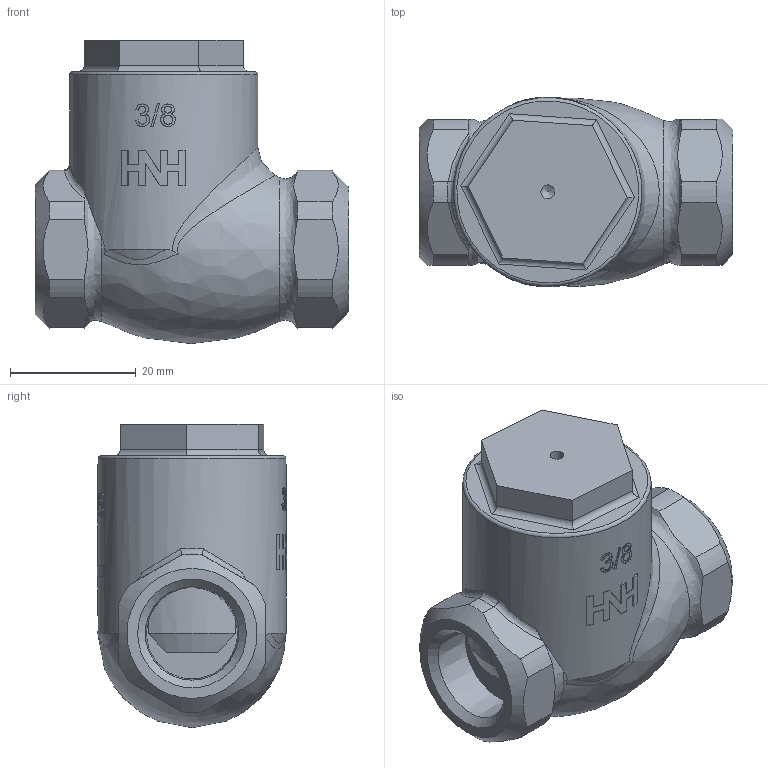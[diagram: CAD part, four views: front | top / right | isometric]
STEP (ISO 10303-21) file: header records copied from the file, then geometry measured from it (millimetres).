
FILE_DESCRIPTION((''),'2;1');
FILE_NAME('P:\Fastrack\53972_CRANE 3D\D142-138\Workspace\Check Valves\Fig-47_3-8in\Fig-47_3-8in.stp','2011-03-03T14:41:34',('btaylor'),(''),'Autodesk Inventor 2008','Autodesk Inventor 2008','');
FILE_SCHEMA(('AUTOMOTIVE_DESIGN { 1 0 10303 214 1 1 1 1 }'));
Length unit declared in the file: millimetre
Products named in the file (1): Fig-47_3-8in
Bounding box: 50 x 30.2 x 48.3 mm (x, y, z)
Volume: 32413.5 mm3; surface area: 9838.2 mm2
Topology: 1 solids, 2 shells, 227 faces, 620 edges, 412 vertices
Faces by surface type: bspline 87, plane 86, cylinder 40, cone 13, torus 1
Full cylindrical faces by diameter (mm): 30 x1
Entity records: 30971 total; most frequent: CARTESIAN_POINT 25805, ORIENTED_EDGE 1196, DIRECTION 705, EDGE_CURVE 598, VERTEX_POINT 403, B_SPLINE_CURVE_WITH_KNOTS 257, EDGE_LOOP 253, AXIS2_PLACEMENT_3D 240
